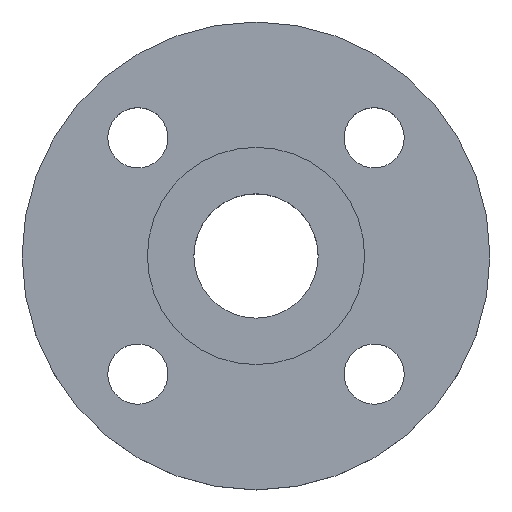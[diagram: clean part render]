
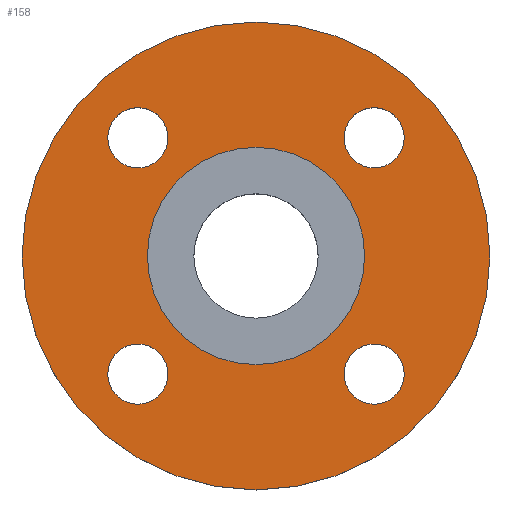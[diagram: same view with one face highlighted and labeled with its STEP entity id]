
A CAD part, top view. The second image highlights one B-rep face of the part: STEP entity #158.
In plain terms, the highlighted planar face has unit normal (0, 0, 1).
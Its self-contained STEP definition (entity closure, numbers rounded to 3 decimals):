
#4 = CIRCLE ( 'NONE', #24, 70. ) ;
#5 = EDGE_CURVE ( 'NONE', #527, #758, #4, .T. ) ;
#11 = EDGE_LOOP ( 'NONE', ( #76, #773 ) ) ;
#15 = CARTESIAN_POINT ( 'NONE',  ( -35.355, 35.355, -4.5 ) ) ;
#20 = CARTESIAN_POINT ( 'NONE',  ( 35.355, -35.355, -4.5 ) ) ;
#23 = DIRECTION ( 'NONE',  ( 0., 0., -1. ) ) ;
#24 = AXIS2_PLACEMENT_3D ( 'NONE', #535, #717, #165 ) ;
#30 = EDGE_CURVE ( 'NONE', #143, #591, #45, .T. ) ;
#41 = FACE_BOUND ( 'NONE', #681, .T. ) ;
#43 = DIRECTION ( 'NONE',  ( 0., 0., -1. ) ) ;
#45 = CIRCLE ( 'NONE', #47, 9. ) ;
#47 = AXIS2_PLACEMENT_3D ( 'NONE', #20, #294, #540 ) ;
#53 = DIRECTION ( 'NONE',  ( -1., 0., 0. ) ) ;
#54 = CARTESIAN_POINT ( 'NONE',  ( 26.355, 35.355, -4.5 ) ) ;
#76 = ORIENTED_EDGE ( 'NONE', *, *, #774, .T. ) ;
#80 = ORIENTED_EDGE ( 'NONE', *, *, #791, .T. ) ;
#87 = DIRECTION ( 'NONE',  ( 1., 0., 0. ) ) ;
#88 = VERTEX_POINT ( 'NONE', #787 ) ;
#106 = CIRCLE ( 'NONE', #576, 9. ) ;
#109 = FACE_BOUND ( 'NONE', #153, .T. ) ;
#113 = EDGE_LOOP ( 'NONE', ( #698, #778 ) ) ;
#137 = CARTESIAN_POINT ( 'NONE',  ( 35.355, 35.355, -4.5 ) ) ;
#140 = AXIS2_PLACEMENT_3D ( 'NONE', #799, #251, #500 ) ;
#143 = VERTEX_POINT ( 'NONE', #495 ) ;
#147 = CARTESIAN_POINT ( 'NONE',  ( -26.355, 35.355, -4.5 ) ) ;
#153 = EDGE_LOOP ( 'NONE', ( #481, #383 ) ) ;
#155 = EDGE_LOOP ( 'NONE', ( #655, #80 ) ) ;
#158 = ADVANCED_FACE ( 'NONE', ( #679, #109, #375, #619, #41, #314 ), #560, .T. ) ;
#165 = DIRECTION ( 'NONE',  ( -1., 0., 0. ) ) ;
#171 = CARTESIAN_POINT ( 'NONE',  ( 70., 0., -4.5 ) ) ;
#175 = DIRECTION ( 'NONE',  ( 1., 0., 0. ) ) ;
#176 = DIRECTION ( 'NONE',  ( -1., 0., 0. ) ) ;
#181 = AXIS2_PLACEMENT_3D ( 'NONE', #490, #731, #175 ) ;
#208 = VERTEX_POINT ( 'NONE', #54 ) ;
#213 = CARTESIAN_POINT ( 'NONE',  ( -35.355, -35.355, -4.5 ) ) ;
#220 = VERTEX_POINT ( 'NONE', #263 ) ;
#222 = CARTESIAN_POINT ( 'NONE',  ( -70., 0., -4.5 ) ) ;
#227 = DIRECTION ( 'NONE',  ( 0., 0., -1. ) ) ;
#233 = VERTEX_POINT ( 'NONE', #511 ) ;
#251 = DIRECTION ( 'NONE',  ( 0., 0., 1. ) ) ;
#262 = CIRCLE ( 'NONE', #280, 9. ) ;
#263 = CARTESIAN_POINT ( 'NONE',  ( -44.355, -35.355, -4.5 ) ) ;
#265 = CIRCLE ( 'NONE', #701, 32.5 ) ;
#273 = CIRCLE ( 'NONE', #720, 32.5 ) ;
#280 = AXIS2_PLACEMENT_3D ( 'NONE', #137, #401, #641 ) ;
#281 = CARTESIAN_POINT ( 'NONE',  ( 44.355, 35.355, -4.5 ) ) ;
#284 = ORIENTED_EDGE ( 'NONE', *, *, #493, .T. ) ;
#288 = EDGE_CURVE ( 'NONE', #377, #208, #262, .T. ) ;
#290 = DIRECTION ( 'NONE',  ( 0., 0., -1. ) ) ;
#294 = DIRECTION ( 'NONE',  ( 0., 0., -1. ) ) ;
#300 = DIRECTION ( 'NONE',  ( 1., 0., 0. ) ) ;
#301 = AXIS2_PLACEMENT_3D ( 'NONE', #606, #23, #300 ) ;
#314 = FACE_OUTER_BOUND ( 'NONE', #113, .T. ) ;
#315 = DIRECTION ( 'NONE',  ( -1., 0., 0. ) ) ;
#321 = VERTEX_POINT ( 'NONE', #342 ) ;
#323 = EDGE_CURVE ( 'NONE', #220, #233, #327, .T. ) ;
#327 = CIRCLE ( 'NONE', #329, 9. ) ;
#329 = AXIS2_PLACEMENT_3D ( 'NONE', #213, #464, #703 ) ;
#335 = VERTEX_POINT ( 'NONE', #147 ) ;
#342 = CARTESIAN_POINT ( 'NONE',  ( 32.5, 0., -4.5 ) ) ;
#375 = FACE_BOUND ( 'NONE', #11, .T. ) ;
#377 = VERTEX_POINT ( 'NONE', #281 ) ;
#380 = CARTESIAN_POINT ( 'NONE',  ( 26.355, -35.355, -4.5 ) ) ;
#381 = CIRCLE ( 'NONE', #756, 9. ) ;
#383 = ORIENTED_EDGE ( 'NONE', *, *, #323, .T. ) ;
#386 = CARTESIAN_POINT ( 'NONE',  ( 0., 0., -4.5 ) ) ;
#401 = DIRECTION ( 'NONE',  ( 0., 0., -1. ) ) ;
#406 = ORIENTED_EDGE ( 'NONE', *, *, #444, .T. ) ;
#416 = CARTESIAN_POINT ( 'NONE',  ( 35.355, 35.355, -4.5 ) ) ;
#431 = CARTESIAN_POINT ( 'NONE',  ( -44.355, 35.355, -4.5 ) ) ;
#444 = EDGE_CURVE ( 'NONE', #208, #377, #381, .T. ) ;
#456 = AXIS2_PLACEMENT_3D ( 'NONE', #620, #43, #315 ) ;
#464 = DIRECTION ( 'NONE',  ( 0., 0., -1. ) ) ;
#466 = AXIS2_PLACEMENT_3D ( 'NONE', #15, #290, #536 ) ;
#467 = EDGE_CURVE ( 'NONE', #233, #220, #644, .T. ) ;
#478 = DIRECTION ( 'NONE',  ( 1., 0., 0. ) ) ;
#481 = ORIENTED_EDGE ( 'NONE', *, *, #467, .T. ) ;
#490 = CARTESIAN_POINT ( 'NONE',  ( -35.355, 35.355, -4.5 ) ) ;
#491 = CARTESIAN_POINT ( 'NONE',  ( 0., 0., -4.5 ) ) ;
#493 = EDGE_CURVE ( 'NONE', #88, #321, #265, .T. ) ;
#495 = CARTESIAN_POINT ( 'NONE',  ( 44.355, -35.355, -4.5 ) ) ;
#500 = DIRECTION ( 'NONE',  ( 1., 0., 0. ) ) ;
#511 = CARTESIAN_POINT ( 'NONE',  ( -26.355, -35.355, -4.5 ) ) ;
#525 = CIRCLE ( 'NONE', #181, 9. ) ;
#527 = VERTEX_POINT ( 'NONE', #171 ) ;
#535 = CARTESIAN_POINT ( 'NONE',  ( 0., 0., -4.5 ) ) ;
#536 = DIRECTION ( 'NONE',  ( 1., 0., 0. ) ) ;
#540 = DIRECTION ( 'NONE',  ( 1., 0., 0. ) ) ;
#551 = EDGE_CURVE ( 'NONE', #552, #335, #525, .T. ) ;
#552 = VERTEX_POINT ( 'NONE', #431 ) ;
#560 = PLANE ( 'NONE',  #140 ) ;
#576 = AXIS2_PLACEMENT_3D ( 'NONE', #776, #227, #478 ) ;
#578 = EDGE_CURVE ( 'NONE', #758, #527, #802, .T. ) ;
#591 = VERTEX_POINT ( 'NONE', #380 ) ;
#606 = CARTESIAN_POINT ( 'NONE',  ( -35.355, -35.355, -4.5 ) ) ;
#618 = ORIENTED_EDGE ( 'NONE', *, *, #626, .T. ) ;
#619 = FACE_BOUND ( 'NONE', #715, .T. ) ;
#620 = CARTESIAN_POINT ( 'NONE',  ( 0., 0., -4.5 ) ) ;
#621 = ORIENTED_EDGE ( 'NONE', *, *, #288, .T. ) ;
#626 = EDGE_CURVE ( 'NONE', #321, #88, #273, .T. ) ;
#628 = DIRECTION ( 'NONE',  ( 0., 0., -1. ) ) ;
#641 = DIRECTION ( 'NONE',  ( 1., 0., 0. ) ) ;
#644 = CIRCLE ( 'NONE', #301, 9. ) ;
#655 = ORIENTED_EDGE ( 'NONE', *, *, #30, .T. ) ;
#658 = DIRECTION ( 'NONE',  ( 0., 0., -1. ) ) ;
#679 = FACE_BOUND ( 'NONE', #155, .T. ) ;
#681 = EDGE_LOOP ( 'NONE', ( #284, #618 ) ) ;
#698 = ORIENTED_EDGE ( 'NONE', *, *, #5, .F. ) ;
#701 = AXIS2_PLACEMENT_3D ( 'NONE', #491, #732, #176 ) ;
#703 = DIRECTION ( 'NONE',  ( 1., 0., 0. ) ) ;
#715 = EDGE_LOOP ( 'NONE', ( #621, #406 ) ) ;
#717 = DIRECTION ( 'NONE',  ( 0., 0., -1. ) ) ;
#720 = AXIS2_PLACEMENT_3D ( 'NONE', #386, #628, #53 ) ;
#731 = DIRECTION ( 'NONE',  ( 0., 0., -1. ) ) ;
#732 = DIRECTION ( 'NONE',  ( 0., 0., -1. ) ) ;
#756 = AXIS2_PLACEMENT_3D ( 'NONE', #416, #658, #87 ) ;
#758 = VERTEX_POINT ( 'NONE', #222 ) ;
#773 = ORIENTED_EDGE ( 'NONE', *, *, #551, .T. ) ;
#774 = EDGE_CURVE ( 'NONE', #335, #552, #813, .T. ) ;
#776 = CARTESIAN_POINT ( 'NONE',  ( 35.355, -35.355, -4.5 ) ) ;
#778 = ORIENTED_EDGE ( 'NONE', *, *, #578, .F. ) ;
#787 = CARTESIAN_POINT ( 'NONE',  ( -32.5, 0., -4.5 ) ) ;
#791 = EDGE_CURVE ( 'NONE', #591, #143, #106, .T. ) ;
#799 = CARTESIAN_POINT ( 'NONE',  ( 32.5, 0., -4.5 ) ) ;
#802 = CIRCLE ( 'NONE', #456, 70. ) ;
#813 = CIRCLE ( 'NONE', #466, 9. ) ;
